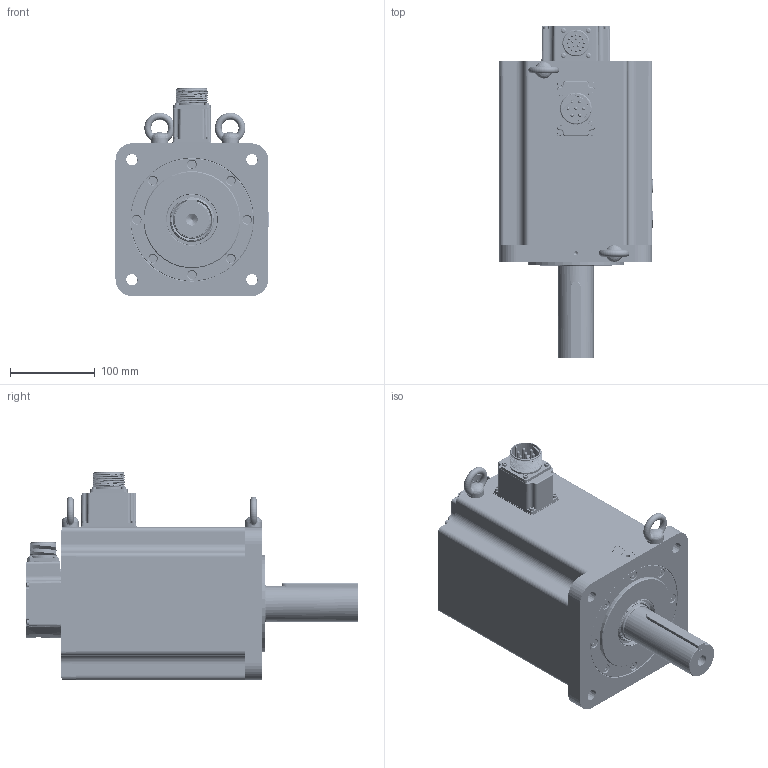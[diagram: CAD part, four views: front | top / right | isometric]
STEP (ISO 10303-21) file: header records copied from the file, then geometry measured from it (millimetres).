
FILE_DESCRIPTION( ( 'Unknown' ), '1' );
FILE_NAME( 'X:/05_Progetto TCE/010-TCE motor drawings/TCE180/vuoti/TCE180 6F XX 3 A2 0 C3.stp', 'Unknown', ( 'Unknown' ), ( 'Unknown' ), 'PSStep 17.0.49', 'Unknown', ' ' );
FILE_SCHEMA( ( 'AUTOMOTIVE_DESIGN { 1 0 10303 214 1 1 1 1 }' ) );
Length unit declared in the file: millimetre
Products named in the file (53): back cover TCE100 + CN MIL; 003303000373; 003108015154; 005911000525; 005911000525-oa3; 005911000525-oa4; 005911000525-oa5; 001107000620; U5180004_vuoto; 003799000581; 003303000372; 003303000370; 003120002509; 007117001753; cap-M3 nudo; 005911000201; 005911000190; Assem1; 005204000001; 005204000003; 005204000002; 005119001104; 005123001110; 005911000216; 005911000006; 005008000664-oa0; 005008000690-oa1; 005008000953-oa2; 005911000493; 003103001503; 005123001580; 003251022004; 005911000479; 005321000010; 003251022003; 005113001080; 003003050009
Assembly tree (80 placements, depth 3):
  Assem1
    005204000001
    005204000003
    005204000002
    005119001104
    005119001104
    005123001110
    005123001110
    005123001110
    005123001110
    005123001110
    005123001110
    005123001110
    005123001110
    005911000216  x4
    005911000006  x8
    005008000664-oa0
    005008000690-oa1
    005008000953-oa2
    005911000493  x4
    003103001503
    005123001580
    005123001580
    005123001580
    005123001580
    005123001580
    005123001580
    005123001580
    005123001580
    003251022004
    005911000479  x8
    005321000010  x2
    003251022003
    005113001080
    003003050009
    back cover TCE100 + CN MIL
      003303000373
      003108015154
      005911000525
      005911000525-oa3
      005911000525-oa4
      005911000525-oa5
      001107000620
    U5180004_vuoto
      003799000581
      003303000372
      003303000370
      003120002509
      003120002509
      007117001753
      cap-M3 nudo
      005911000201  x8
      005911000190
Bounding box: 180.3 x 391 x 245.3 mm (x, y, z)
Volume: 3447953.6 mm3; surface area: 755249.1 mm2
Topology: 78 solids, 85 shells, 2802 faces, 6878 edges, 4405 vertices
Faces by surface type: plane 1361, cylinder 687, cone 221, bspline 186, torus 175, extrusion 88, sphere 82, revolution 2
Full cylindrical faces by diameter (mm): 1.423 x1, 1.523 x1, 2 x34, 2.163 x1, 2.459 x21, 2.5 x1, 2.6 x1, 2.9 x4, 3 x30, 3.048 x4, 3.2 x1, 3.242 x6, 3.5 x11, 3.6 x7, 3.7 x4, 4 x9, 4.134 x24, 4.4 x15, 4.7 x8, 4.917 x2, 5 x16, 5.3 x1, 5.5 x14, 5.6 x4, 6 x7, 6.6 x6, 6.647 x22, 7 x8, 7.2 x1, 8 x17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
Entity records: 115565 total; most frequent: CARTESIAN_POINT 44031, DIRECTION 10554, ORIENTED_EDGE 10146, EDGE_CURVE 5073, AXIS2_PLACEMENT_3D 3934, VERTEX_POINT 3630, EDGE_LOOP 3288, FACE_OUTER_BOUND 2755
